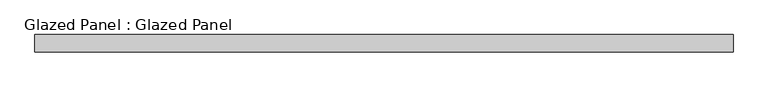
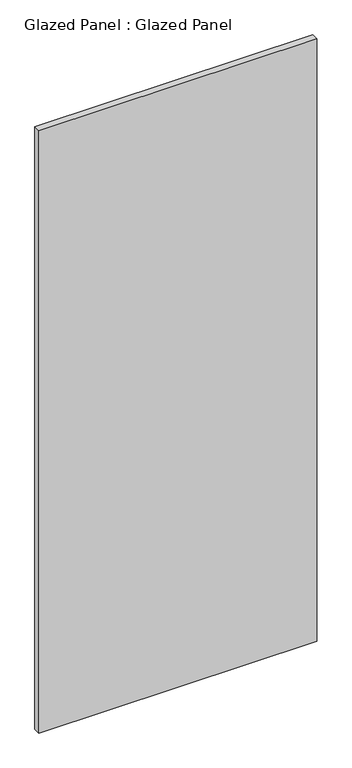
"""IFC4 building model written with IfcOpenShell, lengths in millimetres: plate geometry, Glazed Panel : Glazed Panel."""

from ifc_helpers import new_model, si_unit, origin, origin_with_axes, place, context, project, spatial, polyline, outline, extrude, source, transform, mapped, element, save


def glazed_panel_glazed_panel_8712f61d(model_context):
    return source(origin(), model_context, "Body", "SweptSolid", [
        extrude(outline(polyline([(511.175, 38.1), (-511.175, 38.1), (-511.175, 63.5), (511.175, 63.5), (511.175, 38.1)])), origin_with_axes(), (0.0, 0.0, 1.0), 2343.15),
    ])


if __name__ == "__main__":
    model = new_model("IFC4")
    model_context = context("Model", 3, world=origin())
    ifc_project = project(units=[si_unit("LENGTHUNIT", "METRE", prefix="MILLI")], contexts=[model_context])
    site = spatial("IfcSite", under=ifc_project)
    building = spatial("IfcBuilding", under=site)
    placement = place(None, origin())
    glazed_panel_glazed_panel_shape = glazed_panel_glazed_panel_8712f61d(model_context)
    element("IfcPlate", 1, ObjectType="Glazed Panel : Glazed Panel", at=placement, inside=building, context=model_context, shape_type="MappedRepresentation", body=[
        mapped(glazed_panel_glazed_panel_shape, transform((0.0, 0.0, 0.0), x_axis=(1.0, 0.0, 0.0), y_axis=(0.0, 1.0, 0.0), z_axis=(0.0, 0.0, 1.0))),
    ])
    save(model, "model.ifc")
